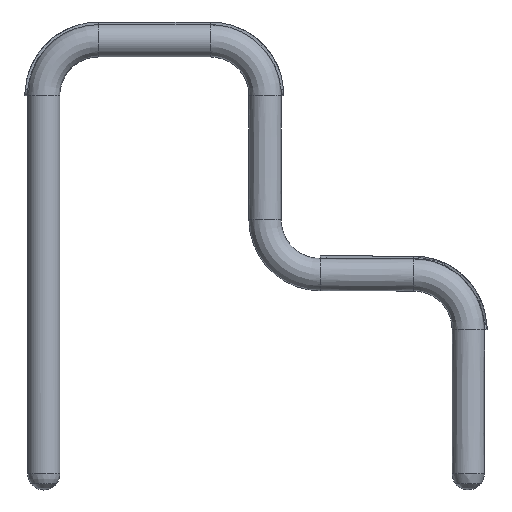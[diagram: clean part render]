
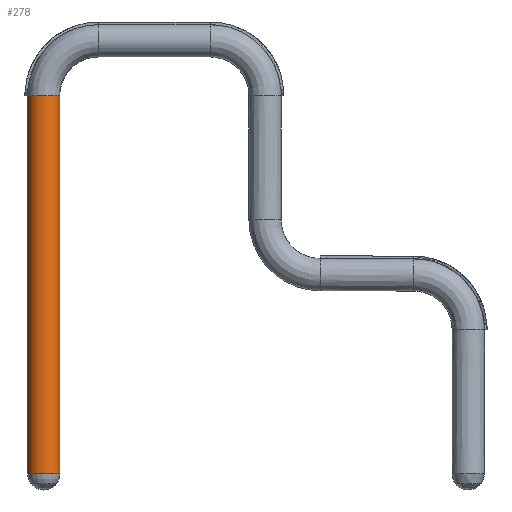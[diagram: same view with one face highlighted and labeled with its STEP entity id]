
A CAD part, left-side view. The second image highlights one B-rep face of the part: STEP entity #278.
In plain terms, the highlighted cylindrical face has radius 12.5 mm (diameter 25 mm), a partial arc.
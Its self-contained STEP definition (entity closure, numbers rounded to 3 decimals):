
#64=CYLINDRICAL_SURFACE('',#1463,12.5);
#146=(
BOUNDED_CURVE()
B_SPLINE_CURVE(3,(#5146,#5147,#5148,#5149),.UNSPECIFIED.,.F.,.F.)
B_SPLINE_CURVE_WITH_KNOTS((4,4),(0.,292.112),.UNSPECIFIED.)
CURVE()
GEOMETRIC_REPRESENTATION_ITEM()
RATIONAL_B_SPLINE_CURVE((1.,1.,1.,1.))
REPRESENTATION_ITEM('')
);
#167=(
BOUNDED_CURVE()
B_SPLINE_CURVE(2,(#5400,#5401,#5402,#5403,#5404),.UNSPECIFIED.,.F.,.F.)
B_SPLINE_CURVE_WITH_KNOTS((3,2,3),(39.27,58.905,78.54),
 .UNSPECIFIED.)
CURVE()
GEOMETRIC_REPRESENTATION_ITEM()
RATIONAL_B_SPLINE_CURVE((1.,0.707,1.,0.707,1.))
REPRESENTATION_ITEM('')
);
#168=(
BOUNDED_CURVE()
B_SPLINE_CURVE(3,(#5405,#5406,#5407,#5408),.UNSPECIFIED.,.F.,.F.)
B_SPLINE_CURVE_WITH_KNOTS((4,4),(0.,292.112),.UNSPECIFIED.)
CURVE()
GEOMETRIC_REPRESENTATION_ITEM()
RATIONAL_B_SPLINE_CURVE((1.,1.,1.,1.))
REPRESENTATION_ITEM('')
);
#169=(
BOUNDED_CURVE()
B_SPLINE_CURVE(2,(#5409,#5410,#5411,#5412,#5413),.UNSPECIFIED.,.F.,.F.)
B_SPLINE_CURVE_WITH_KNOTS((3,2,3),(-3.142,-1.571,0.),
 .UNSPECIFIED.)
CURVE()
GEOMETRIC_REPRESENTATION_ITEM()
RATIONAL_B_SPLINE_CURVE((1.,0.707,1.,0.707,1.))
REPRESENTATION_ITEM('')
);
#278=ADVANCED_FACE('',(#369),#64,.T.);
#369=FACE_OUTER_BOUND('',#460,.T.);
#460=EDGE_LOOP('',(#696,#697,#698,#699));
#696=ORIENTED_EDGE('',*,*,#1016,.T.);
#697=ORIENTED_EDGE('',*,*,#1017,.T.);
#698=ORIENTED_EDGE('',*,*,#992,.F.);
#699=ORIENTED_EDGE('',*,*,#1015,.F.);
#992=EDGE_CURVE('',#1282,#1283,#146,.T.);
#1015=EDGE_CURVE('',#1294,#1282,#167,.T.);
#1016=EDGE_CURVE('',#1294,#1295,#168,.T.);
#1017=EDGE_CURVE('',#1295,#1283,#169,.T.);
#1282=VERTEX_POINT('',#4962);
#1283=VERTEX_POINT('',#4963);
#1294=VERTEX_POINT('',#4974);
#1295=VERTEX_POINT('',#4975);
#1463=AXIS2_PLACEMENT_3D('',#4511,#1501,$);
#1501=DIRECTION('',(0.,0.,1.));
#4511=CARTESIAN_POINT('',(3.488,218.829,131.051));
#4962=CARTESIAN_POINT('',(3.488,206.367,277.11));
#4963=CARTESIAN_POINT('',(3.488,206.292,-15.002));
#4974=CARTESIAN_POINT('',(3.488,231.367,277.103));
#4975=CARTESIAN_POINT('',(3.488,231.292,-15.008));
#5146=CARTESIAN_POINT('',(3.488,206.367,277.11));
#5147=CARTESIAN_POINT('',(3.488,206.342,179.739));
#5148=CARTESIAN_POINT('',(3.488,206.317,82.369));
#5149=CARTESIAN_POINT('',(3.488,206.292,-15.002));
#5400=CARTESIAN_POINT('',(3.488,231.367,277.103));
#5401=CARTESIAN_POINT('',(-9.012,231.367,277.103));
#5402=CARTESIAN_POINT('',(-9.012,218.867,277.107));
#5403=CARTESIAN_POINT('',(-9.012,206.367,277.11));
#5404=CARTESIAN_POINT('',(3.488,206.367,277.11));
#5405=CARTESIAN_POINT('',(3.488,231.367,277.103));
#5406=CARTESIAN_POINT('',(3.488,231.342,179.733));
#5407=CARTESIAN_POINT('',(3.488,231.317,82.362));
#5408=CARTESIAN_POINT('',(3.488,231.292,-15.008));
#5409=CARTESIAN_POINT('',(3.488,231.292,-15.008));
#5410=CARTESIAN_POINT('',(-9.012,231.292,-15.008));
#5411=CARTESIAN_POINT('',(-9.012,218.792,-15.005));
#5412=CARTESIAN_POINT('',(-9.012,206.292,-15.002));
#5413=CARTESIAN_POINT('',(3.488,206.292,-15.002));
